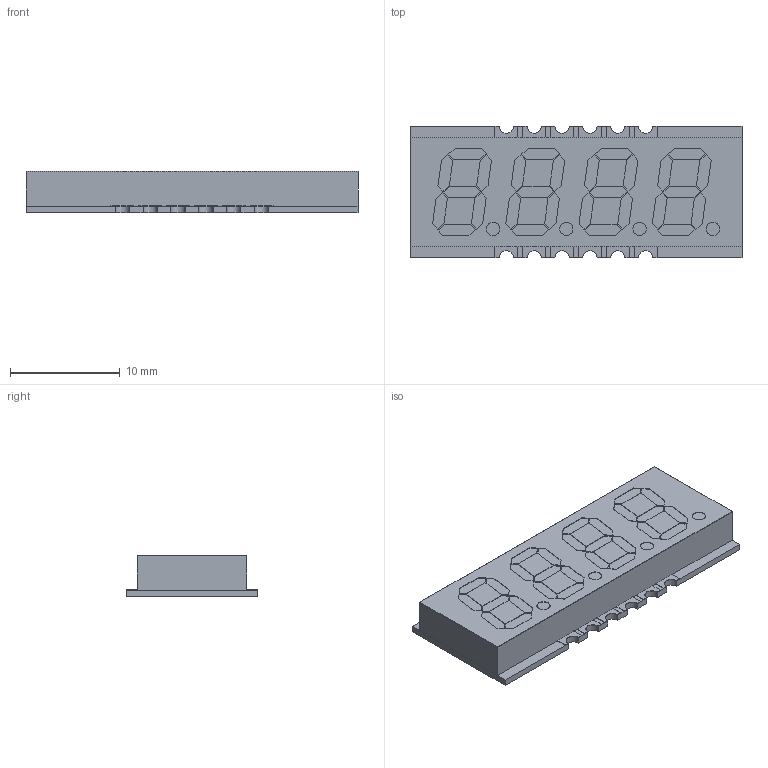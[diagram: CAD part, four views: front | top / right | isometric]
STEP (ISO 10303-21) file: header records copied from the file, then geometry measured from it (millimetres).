
FILE_DESCRIPTION(/* description */ ('STEP AP242 Edition 2','CAx-IF Rec.Pracs.---Representation and Presentation of Product Manufacturing Information (PMI)---4.0---2014-10-13','CAx-IF Rec.Pracs.---3D Tessellated Geometry---0.4---2014-09-14','2;1','CAx-IF Rec.Pracs.---User Defined Attributes---1.5---2016-08-15'),/* implementation_level */ '2;1');
FILE_NAME(/* name */ '699448590d3d34443b2cb7f6',/* time_stamp */ '2026-02-17T10:52:10Z',/* author */ (''),/* organization */ (''),/* preprocessor_version */ 'ST-DEVELOPER v20',/* originating_system */ 'ONSHAPE BY PTC INC, 1.210',/* authorisation */ ' ');
FILE_SCHEMA (('AP242_MANAGED_MODEL_BASED_3D_ENGINEERING_MIM_LF { 1 0 10303 442 3 1 4 }'));
Length unit declared in the file: metre
Products named in the file (15): Part 8; Part 2; Part 9; Part 3; Part 1; Part 10; Part 4; Part 11; Part 5; Part 12; Part 6; Part 13; Part 7; Part 15; Part 14
Bounding box: 30.3 x 12 x 3.8 mm (x, y, z)
Volume: 1180.8 mm3; surface area: 2165.7 mm2
Topology: 15 solids, 15 shells, 310 faces, 840 edges, 560 vertices
Faces by surface type: plane 282, cylinder 28
Full cylindrical faces by diameter (mm): 1.207 x4
Entity records: 10082 total; most frequent: CARTESIAN_POINT 1721, ORIENTED_EDGE 1672, DIRECTION 1542, EDGE_CURVE 836, LINE 780, VECTOR 780, VERTEX_POINT 560, AXIS2_PLACEMENT_3D 381
